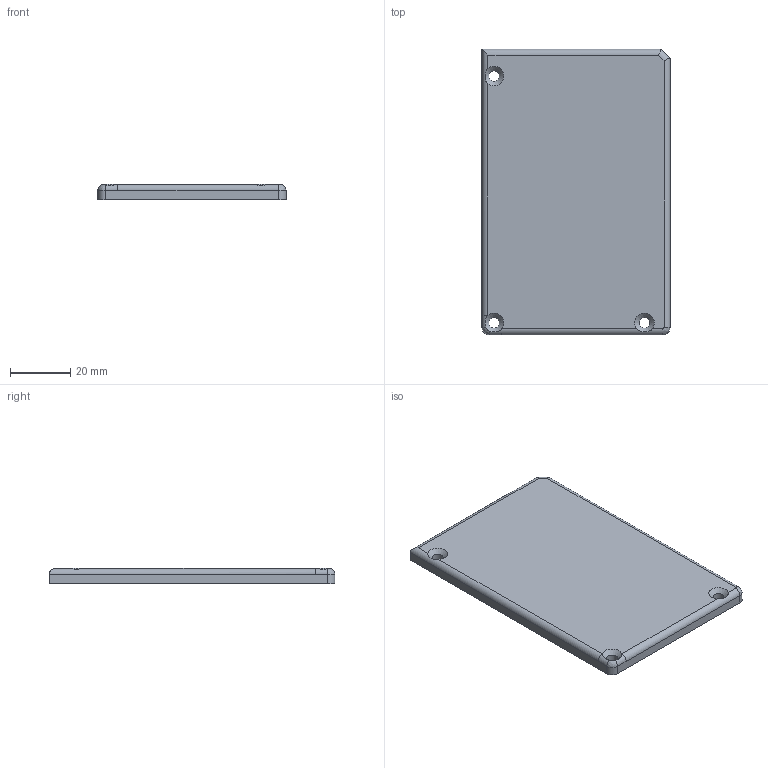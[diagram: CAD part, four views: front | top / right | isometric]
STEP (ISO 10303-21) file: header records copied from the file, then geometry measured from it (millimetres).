
FILE_DESCRIPTION(/* description */ (''),/* implementation_level */ '2;1');
FILE_NAME(/* name */ 'cover.step',/* time_stamp */ '2026-11-14T21:08:05-07:00',/* author */ (''),/* organization */ (''),/* preprocessor_version */ 'ST-DEVELOPER v20.2',/* originating_system */ 'Autodesk Translation Framework v15.17.0.0',/* authorisation */ '');
FILE_SCHEMA (('AUTOMOTIVE_DESIGN { 1 0 10303 214 3 1 1 }'));
Length unit declared in the file: millimetre
Products named in the file (1): 2026-11-14-21-08-05-411
Bounding box: 62.5 x 95 x 5 mm (x, y, z)
Volume: 16825.9 mm3; surface area: 13960.1 mm2
Topology: 1 solids, 1 shells, 49 faces, 135 edges, 86 vertices
Faces by surface type: cylinder 24, plane 20, cone 3, bspline 2
Full cylindrical faces by diameter (mm): 3.6 x3
Entity records: 1659 total; most frequent: CARTESIAN_POINT 346, DIRECTION 272, ORIENTED_EDGE 270, EDGE_CURVE 135, AXIS2_PLACEMENT_3D 96, VERTEX_POINT 86, LINE 80, VECTOR 80
